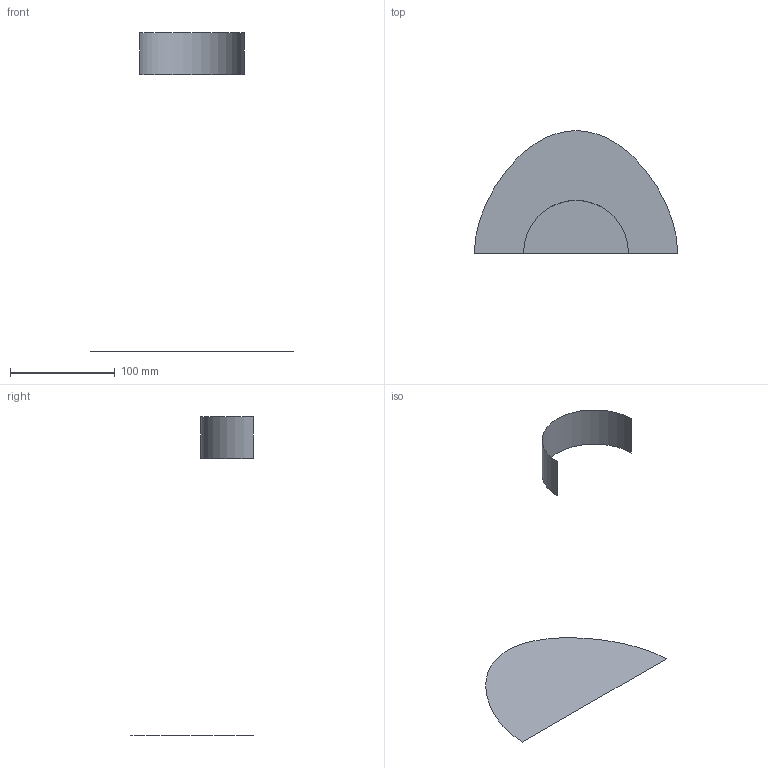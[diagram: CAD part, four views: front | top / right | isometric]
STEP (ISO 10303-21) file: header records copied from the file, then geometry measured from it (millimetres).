
FILE_DESCRIPTION(('CATIA V5 STEP Exchange'),'2;1');
FILE_NAME('C:\_Andres\UNIVERSIDAD\IQS\ASIGNATURAS\DAO\Controles\1617\c1\1original\Carreras_Buscato_Ej00-base_v7.stp','2017-02-06T16:27:35+00:00',('none'),('none'),'CATIA Version 5-6 Release 2014 SP1 HF18','CATIA V5 STEP AP203','none');
FILE_SCHEMA(('CONFIG_CONTROL_DESIGN'));
Length unit declared in the file: millimetre
Products named in the file (1): Carreras_Buscato_Ej00-base_v7
Bounding box: 194 x 117 x 304 mm (x, y, z)
Surface area: 23389.4 mm2 (no closed solid volume)
Topology: 0 solids, 2 shells, 2 faces, 16 edges, 26 vertices
Faces by surface type: cylinder 1, plane 1
Entity records: 230 total; most frequent: CARTESIAN_POINT 78, DIRECTION 16, COMPOSITE_CURVE_SEGMENT 9, TRIMMED_CURVE 9, AXIS2_PLACEMENT_3D 8, COMPOSITE_CURVE 7, ORIENTED_EDGE 7, EDGE_CURVE 7
